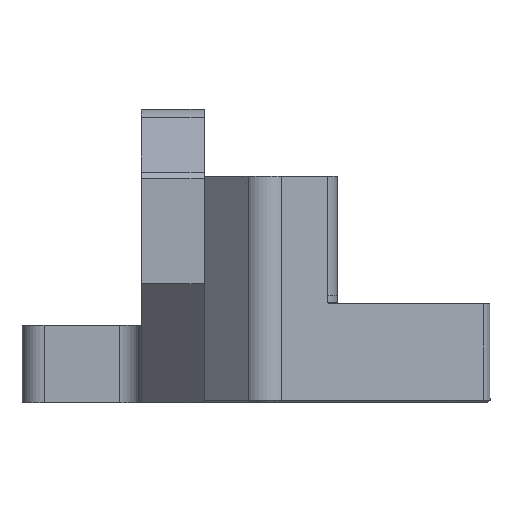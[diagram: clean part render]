
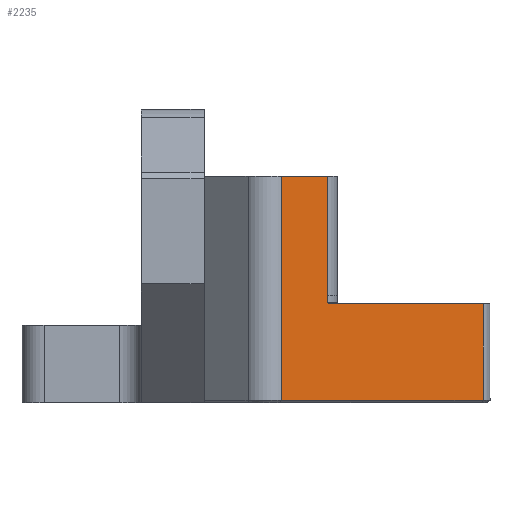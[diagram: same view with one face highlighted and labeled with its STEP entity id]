
A CAD part, left-side view. The second image highlights one B-rep face of the part: STEP entity #2235.
In plain terms, the highlighted planar face has unit normal (-0.707, -0.707, 0).
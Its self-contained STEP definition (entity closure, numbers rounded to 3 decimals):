
#310=FACE_OUTER_BOUND('',#445,.T.);
#445=EDGE_LOOP('',(#1987,#1988,#1989,#1990,#1991,#1992,#1993,#1994,#1995));
#621=LINE('',#4346,#829);
#623=LINE('',#4355,#831);
#624=LINE('',#4358,#832);
#627=LINE('',#4365,#835);
#628=LINE('',#4368,#836);
#630=LINE('',#4372,#838);
#643=LINE('',#4451,#851);
#645=LINE('',#4457,#853);
#646=LINE('',#4458,#854);
#829=VECTOR('',#2896,10.);
#831=VECTOR('',#2906,10.);
#832=VECTOR('',#2909,10.);
#835=VECTOR('',#2916,10.);
#836=VECTOR('',#2921,10.);
#838=VECTOR('',#2925,10.);
#851=VECTOR('',#2964,10.);
#853=VECTOR('',#2970,10.);
#854=VECTOR('',#2971,10.);
#1049=VERTEX_POINT('',#4216);
#1059=VERTEX_POINT('',#4342);
#1061=VERTEX_POINT('',#4345);
#1064=VERTEX_POINT('',#4353);
#1065=VERTEX_POINT('',#4357);
#1067=VERTEX_POINT('',#4364);
#1068=VERTEX_POINT('',#4370);
#1076=VERTEX_POINT('',#4450);
#1078=VERTEX_POINT('',#4456);
#1359=EDGE_CURVE('',#1059,#1061,#621,.T.);
#1364=EDGE_CURVE('',#1064,#1061,#623,.T.);
#1365=EDGE_CURVE('',#1065,#1064,#624,.T.);
#1369=EDGE_CURVE('',#1067,#1065,#627,.F.);
#1371=EDGE_CURVE('',#1067,#1049,#628,.T.);
#1373=EDGE_CURVE('',#1049,#1068,#630,.T.);
#1390=EDGE_CURVE('',#1076,#1059,#643,.T.);
#1393=EDGE_CURVE('',#1078,#1076,#645,.T.);
#1394=EDGE_CURVE('',#1068,#1078,#646,.T.);
#1987=ORIENTED_EDGE('',*,*,#1373,.F.);
#1988=ORIENTED_EDGE('',*,*,#1371,.F.);
#1989=ORIENTED_EDGE('',*,*,#1369,.T.);
#1990=ORIENTED_EDGE('',*,*,#1365,.T.);
#1991=ORIENTED_EDGE('',*,*,#1364,.T.);
#1992=ORIENTED_EDGE('',*,*,#1359,.F.);
#1993=ORIENTED_EDGE('',*,*,#1390,.F.);
#1994=ORIENTED_EDGE('',*,*,#1393,.F.);
#1995=ORIENTED_EDGE('',*,*,#1394,.F.);
#2123=PLANE('',#2431);
#2235=ADVANCED_FACE('',(#310),#2123,.T.);
#2431=AXIS2_PLACEMENT_3D('',#4455,#2968,#2969);
#2896=DIRECTION('',(0.,0.,-1.));
#2906=DIRECTION('',(-0.707,0.707,0.));
#2909=DIRECTION('',(0.,0.,1.));
#2916=DIRECTION('',(0.707,-0.707,0.));
#2921=DIRECTION('',(0.,0.,-1.));
#2925=DIRECTION('',(-0.707,0.707,0.));
#2964=DIRECTION('',(0.,0.,-1.));
#2968=DIRECTION('center_axis',(-0.707,-0.707,0.));
#2969=DIRECTION('ref_axis',(0.707,-0.707,0.));
#2970=DIRECTION('',(0.707,-0.707,0.));
#2971=DIRECTION('',(0.,0.,1.));
#4216=CARTESIAN_POINT('',(22.898,26.174,-28.97));
#4342=CARTESIAN_POINT('',(8.775,40.298,-19.42));
#4345=CARTESIAN_POINT('',(8.775,40.298,-20.07));
#4346=CARTESIAN_POINT('',(8.775,40.298,-19.42));
#4353=CARTESIAN_POINT('',(8.88,40.192,-20.07));
#4355=CARTESIAN_POINT('',(6.651,42.421,-20.07));
#4357=CARTESIAN_POINT('',(8.88,40.192,-20.17));
#4358=CARTESIAN_POINT('',(8.88,40.192,-19.27));
#4364=CARTESIAN_POINT('',(22.898,26.174,-20.17));
#4365=CARTESIAN_POINT('',(9.553,39.519,-20.17));
#4368=CARTESIAN_POINT('',(22.898,26.174,-27.223));
#4370=CARTESIAN_POINT('',(4.55,44.522,-28.97));
#4372=CARTESIAN_POINT('',(10.867,38.206,-28.97));
#4450=CARTESIAN_POINT('',(8.775,40.298,-8.582));
#4451=CARTESIAN_POINT('',(8.775,40.298,-23.598));
#4455=CARTESIAN_POINT('Origin',(4.55,44.522,-28.87));
#4456=CARTESIAN_POINT('',(4.55,44.522,-8.582));
#4457=CARTESIAN_POINT('',(10.867,38.206,-8.582));
#4458=CARTESIAN_POINT('',(4.55,44.522,-17.82));
